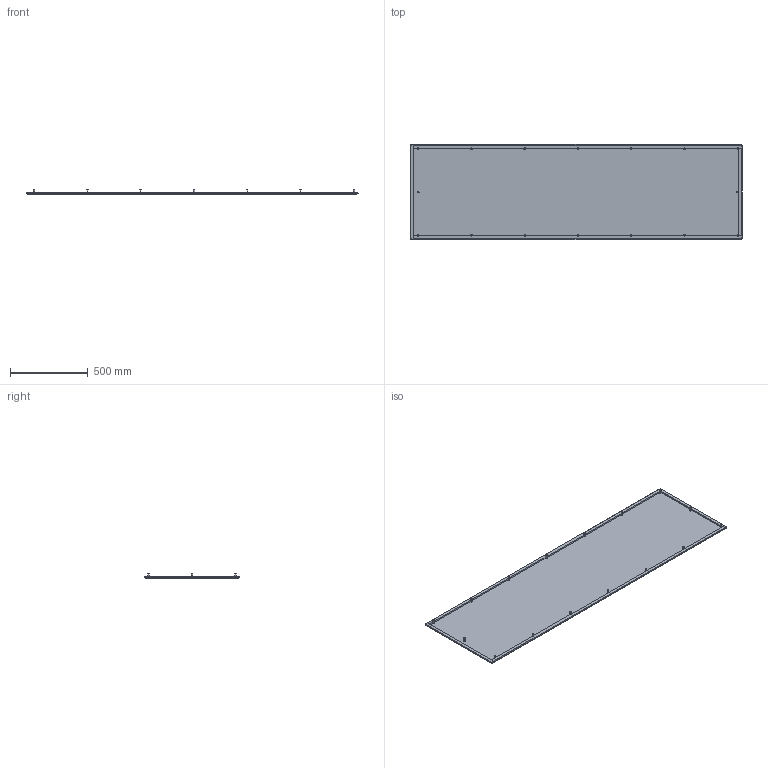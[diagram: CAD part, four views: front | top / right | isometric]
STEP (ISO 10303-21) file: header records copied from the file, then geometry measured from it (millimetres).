
FILE_DESCRIPTION (( 'STEP AP203' ), '1' );
FILE_NAME ('au8424fep.STEP', '2020-06-26T15:50:34', ( '' ), ( '' ), 'SwSTEP 2.0', 'SolidWorks 2016', '' );
FILE_SCHEMA (( 'CONFIG_CONTROL_DESIGN' ));
Length unit declared in the file: inch
Products named in the file (5): 89183263; au8424fep; 89183262; 89183278 ; 99405816_Config-Drawing
Assembly tree (19 placements, depth 3):
  au8424fep
    89183262
      89183263
      99405816_Config-Drawing  x16
    89183278 
Bounding box: 2136.83 x 613.71 x 27.23 mm (x, y, z)
Volume: 3415590.8 mm3; surface area: 2966699.4 mm2
Topology: 21 solids, 21 shells, 266 faces, 504 edges, 312 vertices
Faces by surface type: plane 102, cylinder 72, cone 32, torus 32, bspline 20, sphere 8
Entity records: 4069 total; most frequent: CARTESIAN_POINT 1473, ORIENTED_EDGE 348, DIRECTION 328, EDGE_CURVE 174, AXIS2_PLACEMENT_3D 121, VERTEX_POINT 102, EDGE_LOOP 88, VECTOR 86
